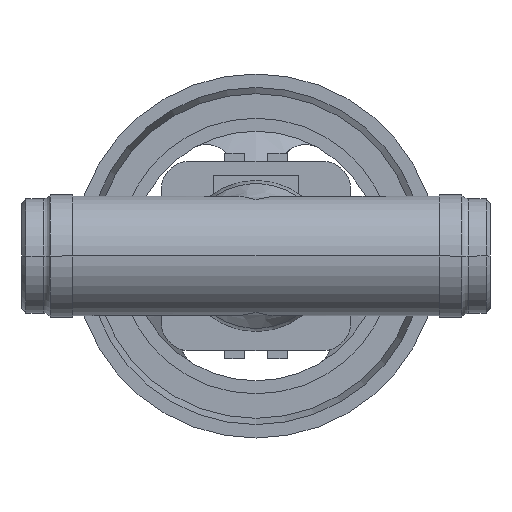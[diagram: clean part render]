
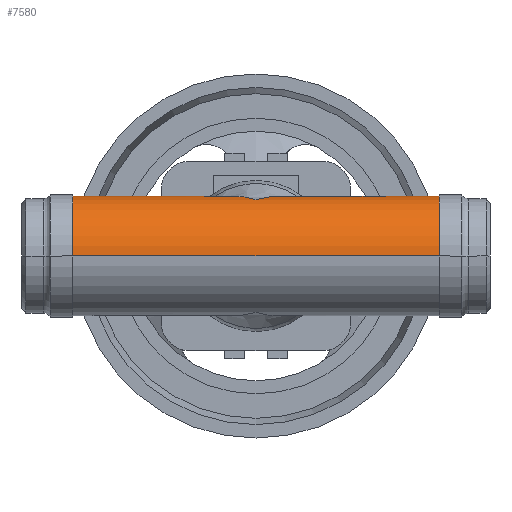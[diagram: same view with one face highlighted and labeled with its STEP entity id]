
A CAD part, front view. The second image highlights one B-rep face of the part: STEP entity #7580.
In plain terms, the highlighted cylindrical face has radius 23 mm (diameter 46 mm), a partial arc.
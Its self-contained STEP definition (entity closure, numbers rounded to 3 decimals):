
#590=CARTESIAN_POINT('',(90.,0.,0.));
#600=DIRECTION('',(1.,0.,0.));
#610=DIRECTION('',(0.,1.,0.));
#620=AXIS2_PLACEMENT_3D('',#590,#600,#610);
#630=CYLINDRICAL_SURFACE('',#620,23.);
#1320=CARTESIAN_POINT('',(98.181,0.,0.));
#1330=DIRECTION('',(-0.686,0.728,0.));
#1340=DIRECTION('',(0.728,0.686,
0.));
#1350=AXIS2_PLACEMENT_3D('',#1320,#1330,#1340);
#1360=ELLIPSE('',#1350,33.54,23.);
#1370=CARTESIAN_POINT('',(90.,-7.708,21.67));
#1380=VERTEX_POINT('',#1370);
#1390=CARTESIAN_POINT('',(108.422,9.649,
20.878));
#1400=VERTEX_POINT('',#1390);
#1410=EDGE_CURVE('',#1380,#1400,#1360,.T.);
#1430=CARTESIAN_POINT('',(81.819,0.,0.));
#1440=DIRECTION('',(0.686,0.728,0.));
#1450=DIRECTION('',(-0.728,0.686,
0.));
#1460=AXIS2_PLACEMENT_3D('',#1430,#1440,#1450);
#1470=ELLIPSE('',#1460,33.54,23.);
#1480=CARTESIAN_POINT('',(71.578,9.649,
20.878));
#1490=VERTEX_POINT('',#1480);
#1500=EDGE_CURVE('',#1490,#1380,#1470,.T.);
#6230=CARTESIAN_POINT('',(90.,-23.,0.));
#6240=DIRECTION('',(1.,0.,0.));
#6250=VECTOR('',#6240,1.);
#6260=LINE('',#6230,#6250);
#6270=CARTESIAN_POINT('',(19.58,-23.,0.));
#6280=VERTEX_POINT('',#6270);
#6290=CARTESIAN_POINT('',(160.42,-23.,0.));
#6300=VERTEX_POINT('',#6290);
#6310=EDGE_CURVE('',#6280,#6300,#6260,.T.);
#6320=ORIENTED_EDGE('',*,*,#6310,.T.);
#6330=CARTESIAN_POINT('',(19.58,0.,0.));
#6340=DIRECTION('',(-1.,0.,0.));
#6350=DIRECTION('',(0.,1.,0.));
#6360=AXIS2_PLACEMENT_3D('',#6330,#6340,#6350);
#6370=CIRCLE('',#6360,23.);
#6380=CARTESIAN_POINT('',(19.58,23.,0.));
#6390=VERTEX_POINT('',#6380);
#6400=EDGE_CURVE('',#6280,#6390,#6370,.T.);
#6410=ORIENTED_EDGE('',*,*,#6400,.F.);
#6420=CARTESIAN_POINT('',(90.,23.,0.));
#6430=DIRECTION('',(1.,0.,0.));
#6440=VECTOR('',#6430,1.);
#6450=LINE('',#6420,#6440);
#6460=CARTESIAN_POINT('',(61.,23.,0.));
#6470=VERTEX_POINT('',#6460);
#6480=EDGE_CURVE('',#6390,#6470,#6450,.T.);
#6490=ORIENTED_EDGE('',*,*,#6480,.F.);
#6500=CARTESIAN_POINT('',(90.,36.825,0.));
#6510=DIRECTION('',(0.,1.,0.));
#6520=DIRECTION('',(0.,0.,1.));
#6530=AXIS2_PLACEMENT_3D('',#6500,#6510,#6520);
#6540=CYLINDRICAL_SURFACE('',#6530,29.);
#6550=CARTESIAN_POINT('',(90.,0.,0.));
#6560=DIRECTION('',(1.,0.,0.));
#6570=DIRECTION('',(0.,1.,0.));
#6580=AXIS2_PLACEMENT_3D('',#6550,#6560,#6570);
#6590=CYLINDRICAL_SURFACE('',#6580,23.);
#6600=CARTESIAN_POINT('',(65.93,16.351,
16.175));
#6610=CARTESIAN_POINT('',(65.255,17.345,
15.17));
#6620=CARTESIAN_POINT('',(64.608,18.249,
14.074));
#6630=CARTESIAN_POINT('',(64.011,19.064,
12.867));
#6640=CARTESIAN_POINT('',(63.414,19.877,
11.662));
#6650=CARTESIAN_POINT('',(62.874,20.59,
10.359));
#6660=CARTESIAN_POINT('',(62.425,21.174,
8.98));
#6670=CARTESIAN_POINT('',(61.978,21.758,
7.605));
#6680=CARTESIAN_POINT('',(61.616,22.219,
6.142));
#6690=CARTESIAN_POINT('',(61.372,22.53,
4.628));
#6700=CARTESIAN_POINT('',(61.127,22.84,
3.117));
#6710=CARTESIAN_POINT('',(61.,23.,1.56));
#6720=CARTESIAN_POINT('',(61.,23.,0.));
#6730=B_SPLINE_CURVE_WITH_KNOTS('',3,(#6600,#6610,#6620,#6630,#6640,
#6650,#6660,#6670,#6680,#6690,#6700,#6710,#6720),.UNSPECIFIED.,.F.,.F.,(
4,3,3,3,4),(0.,4.695,9.402,14.092,
18.771),.UNSPECIFIED.);
#6740=SURFACE_CURVE('',#6730,(#6540,#6590),.CURVE_3D.);
#6750=CARTESIAN_POINT('',(65.93,16.351,
16.175));
#6760=VERTEX_POINT('',#6750);
#6770=EDGE_CURVE('',#6760,#6470,#6740,.T.);
#6780=ORIENTED_EDGE('',*,*,#6770,.T.);
#6790=CARTESIAN_POINT('',(90.,16.351,0.));
#6800=DIRECTION('',(0.,-1.,0.));
#6810=DIRECTION('',(-1.,0.,0.));
#6820=AXIS2_PLACEMENT_3D('',#6790,#6800,#6810);
#6830=DEGENERATE_TOROIDAL_SURFACE('',#6820,9.,
20.,.T.);
#6840=CARTESIAN_POINT('',(71.578,9.649,
20.878));
#6850=CARTESIAN_POINT('',(71.,10.193,
20.627));
#6860=CARTESIAN_POINT('',(70.446,10.754,
20.342));
#6870=CARTESIAN_POINT('',(69.918,11.32,
20.021));
#6880=CARTESIAN_POINT('',(69.391,11.887,
19.701));
#6890=CARTESIAN_POINT('',(68.89,12.46,
19.345));
#6900=CARTESIAN_POINT('',(68.419,13.03,
18.953));
#6910=CARTESIAN_POINT('',(67.947,13.6,
18.561));
#6920=CARTESIAN_POINT('',(67.504,14.166,
18.134));
#6930=CARTESIAN_POINT('',(67.09,14.721,
17.672));
#6940=CARTESIAN_POINT('',(66.677,15.275,
17.211));
#6950=CARTESIAN_POINT('',(66.291,15.82,
16.712));
#6960=CARTESIAN_POINT('',(65.93,16.351,
16.175));
#6970=B_SPLINE_CURVE_WITH_KNOTS('',3,(#6840,#6850,#6860,#6870,#6880,
#6890,#6900,#6910,#6920,#6930,#6940,#6950,#6960),.UNSPECIFIED.,.F.,.F.,(
4,3,3,3,4),(0.,2.508,5.022,7.526,
10.026),.UNSPECIFIED.);
#6980=SURFACE_CURVE('',#6970,(#6830,#6590),.CURVE_3D.);
#6990=EDGE_CURVE('',#1490,#6760,#6980,.T.);
#7000=ORIENTED_EDGE('',*,*,#6990,.T.);
#7010=ORIENTED_EDGE('',*,*,#1500,.F.);
#7020=ORIENTED_EDGE('',*,*,#1410,.F.);
#7030=CARTESIAN_POINT('',(90.,16.351,0.));
#7040=DIRECTION('',(0.,-1.,0.));
#7050=DIRECTION('',(-1.,0.,0.));
#7060=AXIS2_PLACEMENT_3D('',#7030,#7040,#7050);
#7070=DEGENERATE_TOROIDAL_SURFACE('',#7060,9.,
20.,.T.);
#7080=CARTESIAN_POINT('',(113.749,15.885,
16.634));
#7090=CARTESIAN_POINT('',(113.4,15.385,
17.111));
#7100=CARTESIAN_POINT('',(113.027,14.871,
17.559));
#7110=CARTESIAN_POINT('',(112.629,14.349,
17.975));
#7120=CARTESIAN_POINT('',(112.231,13.827,
18.392));
#7130=CARTESIAN_POINT('',(111.809,13.298,
18.777));
#7140=CARTESIAN_POINT('',(111.364,12.769,
19.13));
#7150=CARTESIAN_POINT('',(110.918,12.24,
19.483));
#7160=CARTESIAN_POINT('',(110.45,11.712,
19.804));
#7170=CARTESIAN_POINT('',(109.961,11.191,
20.094));
#7180=CARTESIAN_POINT('',(109.472,10.671,
20.383));
#7190=CARTESIAN_POINT('',(108.959,10.155,
20.644));
#7200=CARTESIAN_POINT('',(108.422,9.649,
20.878));
#7210=B_SPLINE_CURVE_WITH_KNOTS('',3,(#7080,#7090,#7100,#7110,#7120,
#7130,#7140,#7150,#7160,#7170,#7180,#7190,#7200),.UNSPECIFIED.,.F.,.F.,(
4,3,3,3,4),(0.,2.327,4.659,6.981,
9.298),.UNSPECIFIED.);
#7220=SURFACE_CURVE('',#7210,(#7070,#6590),.CURVE_3D.);
#7230=CARTESIAN_POINT('',(113.749,15.885,
16.634));
#7240=VERTEX_POINT('',#7230);
#7250=EDGE_CURVE('',#7240,#1400,#7220,.T.);
#7260=ORIENTED_EDGE('',*,*,#7250,.T.);
#7270=CARTESIAN_POINT('',(147.814,0.,0.));
#7280=DIRECTION('',(-0.423,-0.906,0.));
#7290=DIRECTION('',(0.906,-0.423,
0.));
#7300=AXIS2_PLACEMENT_3D('',#7270,#7280,#7290);
#7310=ELLIPSE('',#7300,54.423,23.);
#7320=CARTESIAN_POINT('',(147.814,0.,23.));
#7330=VERTEX_POINT('',#7320);
#7340=EDGE_CURVE('',#7330,#7240,#7310,.T.);
#7350=ORIENTED_EDGE('',*,*,#7340,.T.);
#7360=CARTESIAN_POINT('',(147.814,0.,0.));
#7370=DIRECTION('',(0.906,-0.423,
0.));
#7380=DIRECTION('',(0.423,0.906,
0.));
#7390=AXIS2_PLACEMENT_3D('',#7360,#7370,#7380);
#7400=ELLIPSE('',#7390,25.378,23.);
#7410=CARTESIAN_POINT('',(158.539,23.,0.));
#7420=VERTEX_POINT('',#7410);
#7430=EDGE_CURVE('',#7420,#7330,#7400,.T.);
#7440=ORIENTED_EDGE('',*,*,#7430,.T.);
#7450=CARTESIAN_POINT('',(160.42,23.,0.));
#7460=VERTEX_POINT('',#7450);
#7470=EDGE_CURVE('',#7420,#7460,#6450,.T.);
#7480=ORIENTED_EDGE('',*,*,#7470,.F.);
#7490=CARTESIAN_POINT('',(160.42,0.,0.));
#7500=DIRECTION('',(-1.,0.,0.));
#7510=DIRECTION('',(0.,1.,0.));
#7520=AXIS2_PLACEMENT_3D('',#7490,#7500,#7510);
#7530=CIRCLE('',#7520,23.);
#7540=EDGE_CURVE('',#6300,#7460,#7530,.T.);
#7550=ORIENTED_EDGE('',*,*,#7540,.T.);
#7560=EDGE_LOOP('',(#7550,#7480,#7440,#7350,#7260,#7020,#7010,#7000,
#6780,#6490,#6410,#6320));
#7570=FACE_OUTER_BOUND('',#7560,.T.);
#7580=ADVANCED_FACE('',(#7570),#630,.T.);
